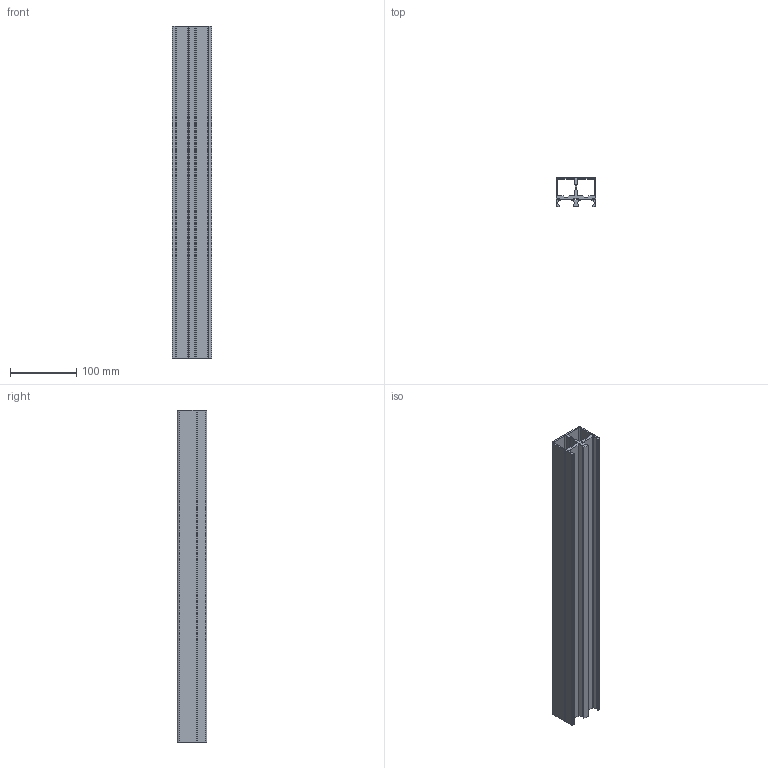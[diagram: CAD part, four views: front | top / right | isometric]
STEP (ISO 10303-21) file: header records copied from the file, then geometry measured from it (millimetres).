
FILE_DESCRIPTION (( 'STEP AP214' ), '1' );
FILE_NAME ('A40769.step', '2024-12-03T16:12:54', ( '' ), ( '' ), 'SwSTEP 2.0', 'SolidWorks 2023', '' );
FILE_SCHEMA (( 'AUTOMOTIVE_DESIGN' ));
Length unit declared in the file: millimetre
Products named in the file (1): A40769
Bounding box: 60 x 44 x 500 mm (x, y, z)
Volume: 370496.1 mm3; surface area: 251788.7 mm2
Topology: 1 solids, 1 shells, 90 faces, 264 edges, 176 vertices
Faces by surface type: plane 70, cylinder 20
Full cylindrical faces by diameter (mm): 3 x2
Entity records: 3001 total; most frequent: CARTESIAN_POINT 529, ORIENTED_EDGE 524, DIRECTION 484, EDGE_CURVE 262, VECTOR 222, LINE 222, VERTEX_POINT 176, AXIS2_PLACEMENT_3D 131
